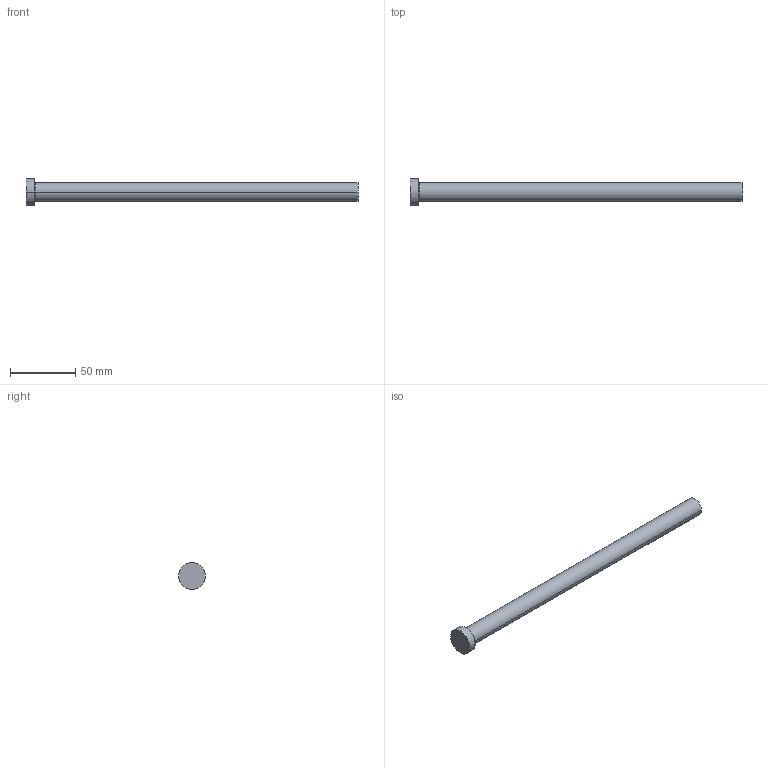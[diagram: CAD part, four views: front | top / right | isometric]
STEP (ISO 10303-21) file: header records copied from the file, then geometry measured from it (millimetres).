
FILE_DESCRIPTION (( 'STEP AP214' ), '1' );
FILE_NAME ('P35-10.STEP', '2020-03-12T12:00:11', ( '' ), ( '' ), 'SwSTEP 2.0', 'SolidWorks 2018', '' );
FILE_SCHEMA (( 'AUTOMOTIVE_DESIGN' ));
Length unit declared in the file: inch
Products named in the file (1): P35-10
Bounding box: 254 x 20.64 x 20.64 mm (x, y, z)
Volume: 41763.2 mm3; surface area: 12164.6 mm2
Topology: 1 solids, 1 shells, 13 faces, 24 edges, 14 vertices
Faces by surface type: cone 4, cylinder 4, plane 3, torus 2
Entity records: 366 total; most frequent: DIRECTION 68, CARTESIAN_POINT 52, ORIENTED_EDGE 48, AXIS2_PLACEMENT_3D 30, EDGE_CURVE 24, CIRCLE 16, EDGE_LOOP 14, VERTEX_POINT 14
